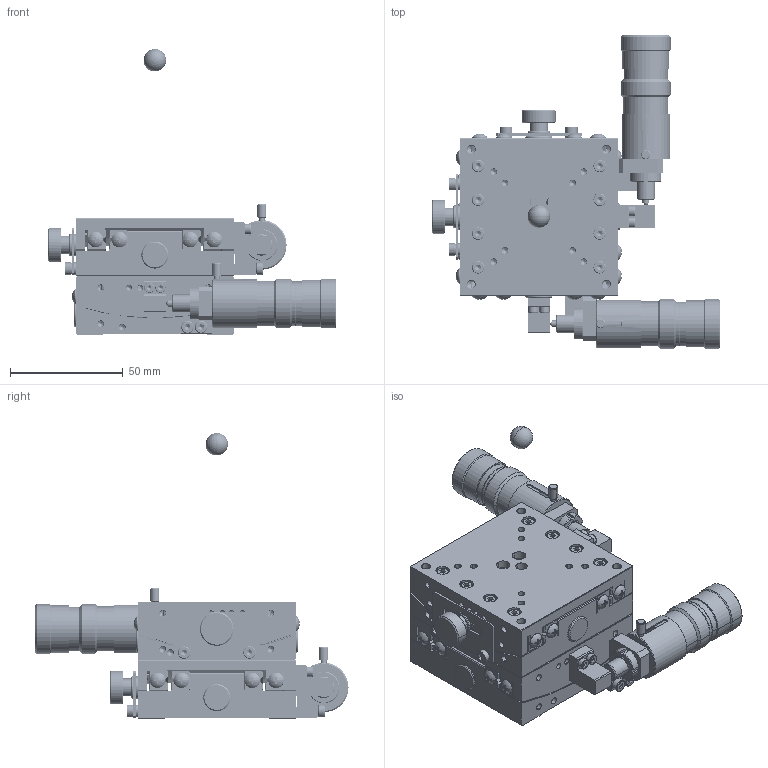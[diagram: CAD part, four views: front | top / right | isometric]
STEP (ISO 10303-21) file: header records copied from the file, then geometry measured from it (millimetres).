
FILE_DESCRIPTION (( 'STEP AP214' ), '1' );
FILE_NAME ('ST07A-S3S-CL.STEP', '2007-08-01T08:01:27', ( ' ' ), ( ' ' ), 'SwSTEP 2.0', 'SolidWorks 2006052', '' );
FILE_SCHEMA (( 'AUTOMOTIVE_DESIGN' ));
Length unit declared in the file: millimetre
Products named in the file (9): ST07A-S3S-CL-Part-1; 002590-1011(3D); ST07A-S3M-CL(PL); ST07A-S3S-CL; ST07A-S3T-CL(PL); 002600-1011(3D); 002600-1020(3D); FFP03-13(spindle); FFP03-13(spindle)-1
Assembly tree (8 placements, depth 3):
  ST07A-S3S-CL
    ST07A-S3M-CL(PL)
      002600-1020(3D)
      002600-1011(3D)
      FFP03-13(spindle)
    ST07A-S3S-CL-Part-1
    ST07A-S3T-CL(PL)
      FFP03-13(spindle)-1
      002590-1011(3D)
Bounding box: 128 x 139 x 127 mm (x, y, z)
Volume: 263663.5 mm3; surface area: 115626 mm2
Topology: 6 solids, 73 shells, 3770 faces, 8843 edges, 5158 vertices
Faces by surface type: plane 1544, cylinder 1220, cone 954, sphere 36, torus 16
Entity records: 113437 total; most frequent: CARTESIAN_POINT 27203, DIRECTION 18776, ORIENTED_EDGE 17188, EDGE_CURVE 8594, AXIS2_PLACEMENT_3D 7224, VERTEX_POINT 5155, VECTOR 4328, LINE 4328
